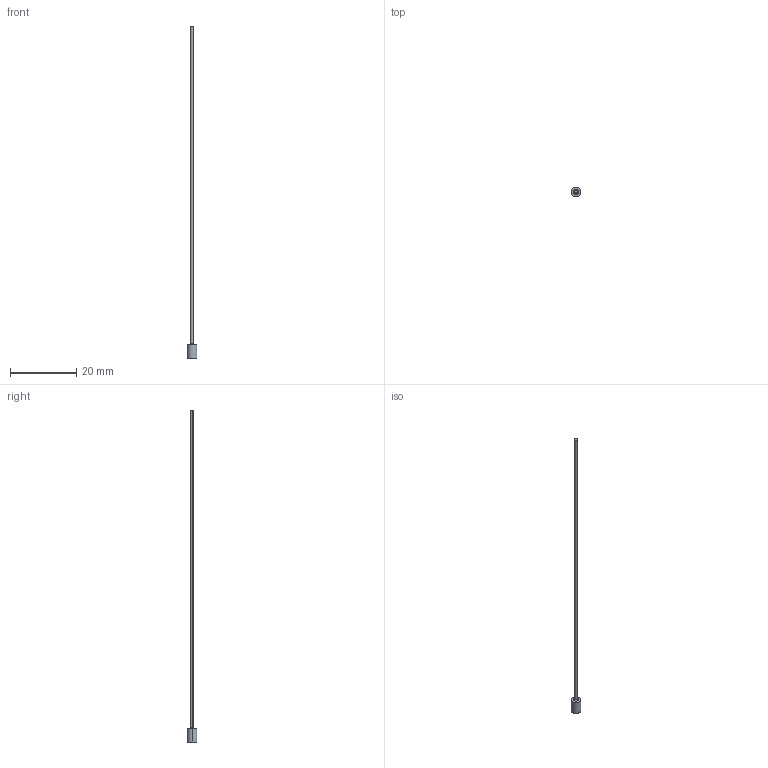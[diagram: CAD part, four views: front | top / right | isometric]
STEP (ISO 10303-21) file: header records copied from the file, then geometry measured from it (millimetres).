
FILE_DESCRIPTION (( 'STEP AP214' ), '1' );
FILE_NAME ('EPHE-B0.9-100.step', '2024-04-11T21:20:34', ( '' ), ( '' ), 'SwSTEP 2.0', 'SolidWorks 2017', '' );
FILE_SCHEMA (( 'AUTOMOTIVE_DESIGN' ));
Length unit declared in the file: millimetre
Products named in the file (1): EPHE-B0.9-100
Bounding box: 3 x 3 x 100 mm (x, y, z)
Volume: 89.4 mm3; surface area: 322.9 mm2
Topology: 1 solids, 1 shells, 9 faces, 16 edges, 10 vertices
Faces by surface type: cylinder 4, plane 3, torus 2
Entity records: 260 total; most frequent: DIRECTION 48, CARTESIAN_POINT 36, ORIENTED_EDGE 32, AXIS2_PLACEMENT_3D 22, EDGE_CURVE 16, CIRCLE 12, EDGE_LOOP 10, VERTEX_POINT 10
